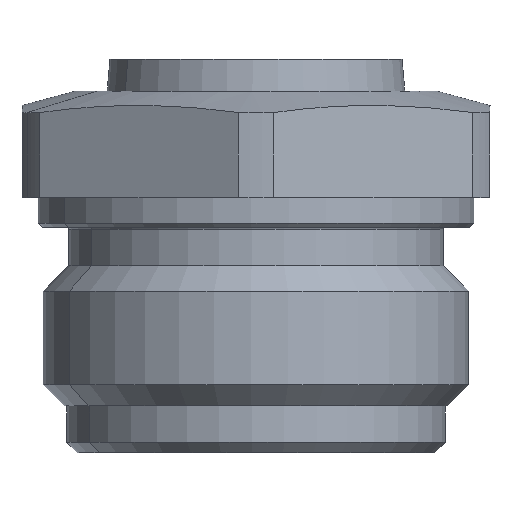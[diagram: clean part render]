
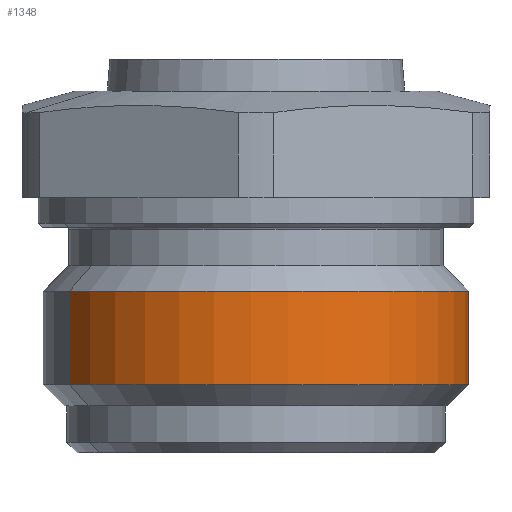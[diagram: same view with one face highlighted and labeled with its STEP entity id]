
A CAD part, left-side view. The second image highlights one B-rep face of the part: STEP entity #1348.
In plain terms, the highlighted cylindrical face has radius 10 mm (diameter 20 mm), a partial arc.
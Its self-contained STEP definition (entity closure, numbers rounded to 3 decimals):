
#1166=AXIS2_PLACEMENT_3D('Circle Axis2P3D',#1164,#1165,$) ;
#1301=AXIS2_PLACEMENT_3D('Cylinder Axis2P3D',#1298,#1299,#1300) ;
#1339=AXIS2_PLACEMENT_3D('Circle Axis2P3D',#1337,#1338,$) ;
#1154=CARTESIAN_POINT('Vertex',(-4.794,3.2,-8.776)) ;
#1161=CARTESIAN_POINT('Vertex',(4.794,3.2,8.776)) ;
#1164=CARTESIAN_POINT('Axis2P3D Location',(0.,3.2,0.)) ;
#1298=CARTESIAN_POINT('Axis2P3D Location',(0.,8.5,0.)) ;
#1303=CARTESIAN_POINT('Line Origine',(4.794,5.5,8.776)) ;
#1307=CARTESIAN_POINT('Vertex',(4.794,7.6,8.776)) ;
#1310=CARTESIAN_POINT('Line Origine',(-4.794,5.5,-8.776)) ;
#1314=CARTESIAN_POINT('Vertex',(-4.794,7.6,-8.776)) ;
#1337=CARTESIAN_POINT('Axis2P3D Location',(0.,7.6,0.)) ;
#1165=DIRECTION('Axis2P3D Direction',(0.,1.,0.)) ;
#1299=DIRECTION('Axis2P3D Direction',(0.,1.,0.)) ;
#1300=DIRECTION('Axis2P3D XDirection',(0.479,-0.,0.878)) ;
#1304=DIRECTION('Vector Direction',(0.,1.,0.)) ;
#1311=DIRECTION('Vector Direction',(0.,1.,0.)) ;
#1338=DIRECTION('Axis2P3D Direction',(0.,1.,0.)) ;
#1305=VECTOR('Line Direction',#1304,1.) ;
#1312=VECTOR('Line Direction',#1311,1.) ;
#1343=ORIENTED_EDGE('',*,*,#1316,.T.) ;
#1344=ORIENTED_EDGE('',*,*,#1168,.T.) ;
#1345=ORIENTED_EDGE('',*,*,#1309,.F.) ;
#1346=ORIENTED_EDGE('',*,*,#1341,.F.) ;
#1348=ADVANCED_FACE('PartBody',(#1347),#1302,.T.) ;
#1167=CIRCLE('generated circle',#1166,10.) ;
#1340=CIRCLE('generated circle',#1339,10.) ;
#1302=CYLINDRICAL_SURFACE('generated cylinder',#1301,10.) ;
#1168=EDGE_CURVE('',#1155,#1162,#1167,.T.) ;
#1309=EDGE_CURVE('',#1308,#1162,#1306,.F.) ;
#1316=EDGE_CURVE('',#1315,#1155,#1313,.F.) ;
#1341=EDGE_CURVE('',#1315,#1308,#1340,.T.) ;
#1342=EDGE_LOOP('',(#1343,#1344,#1345,#1346)) ;
#1347=FACE_OUTER_BOUND('',#1342,.T.) ;
#1306=LINE('Line',#1303,#1305) ;
#1313=LINE('Line',#1310,#1312) ;
#1155=VERTEX_POINT('',#1154) ;
#1162=VERTEX_POINT('',#1161) ;
#1308=VERTEX_POINT('',#1307) ;
#1315=VERTEX_POINT('',#1314) ;
